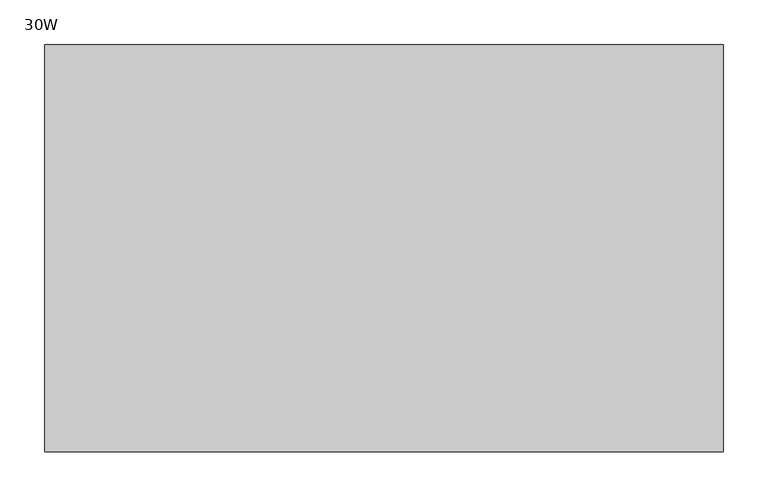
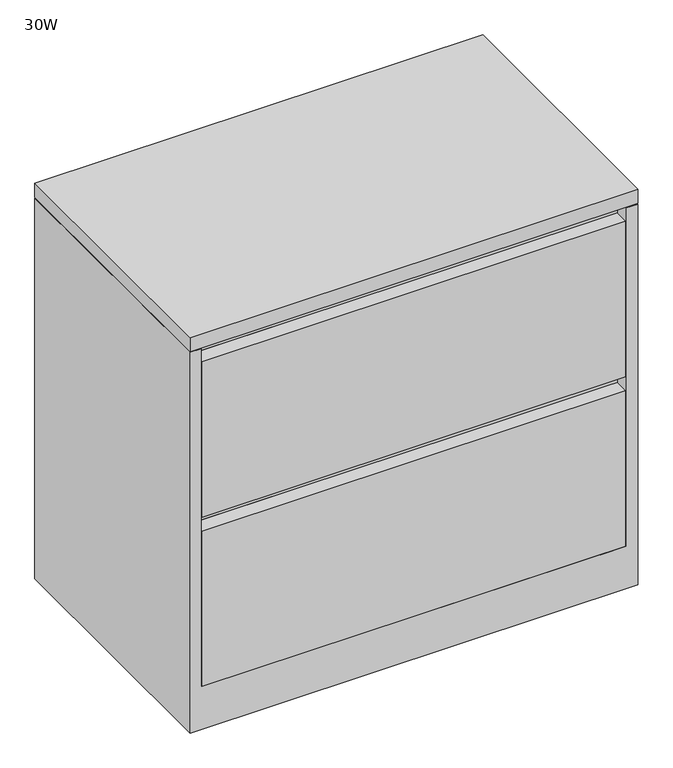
"""IFC4 building model written with IfcOpenShell, lengths in millimetres: furniture geometry, Steelcase - 900 Series - Storage - Lateral File With Drawer - 28H - Flush Steel : 30W."""

import ifcopenshell
import ifcopenshell.guid

model = None  # the IFC model being written
_history = None  # IfcOwnerHistory: only IFC2X3 demands one
_inside = {}  # id of a spatial element -> (the spatial element, [elements in it])
_under = {}  # id of a project, library or spatial element -> (it, [spatial elements below it])
_declared = {}  # id of a project -> (the project, [libraries it declares])
_typed = {}  # id of a type object -> (the type object, [elements of that type])
_made_of = {}  # id of a material, layer set ... -> (it, [elements and type objects made of it])


def new_model(schema):
    """Start an empty IFC model of exactly this schema.

    Asked for "IFC4X3", IfcOpenShell would pick the latest addendum, in which some entities
    have other attributes; the version numbers below select the first issue.
    IFC2X3 requires an IfcOwnerHistory on every rooted entity: one is made here for all.
    """
    global model, _history
    if schema == "IFC4X3":
        model = ifcopenshell.file(schema_version=(4, 3, 0, 0))
    else:
        model = ifcopenshell.file(schema=schema)
    _inside.clear()
    _under.clear()
    _declared.clear()
    _typed.clear()
    _made_of.clear()
    _history = None
    if model.schema == "IFC2X3":
        org = make("IfcOrganization", Name="unknown")
        user = make(
            "IfcPersonAndOrganization",
            ThePerson=make("IfcPerson", FamilyName="unknown"),
            TheOrganization=org,
        )
        app = make(
            "IfcApplication",
            ApplicationDeveloper=org,
            Version="unknown",
            ApplicationFullName="unknown",
            ApplicationIdentifier="unknown",
        )
        _history = make(
            "IfcOwnerHistory",
            OwningUser=user,
            OwningApplication=app,
            ChangeAction="ADDED",
            CreationDate=0,
        )
    return model


def make(cls, **values):
    """One entity of the class cls with the attributes given. An attribute that is None is left unset."""
    return model.create_entity(
        cls, **{name: value for name, value in values.items() if value is not None}
    )


def rooted(cls, **values):
    """An entity with a GlobalId (a new one), such as an element, a storey or a relation."""
    return make(cls, GlobalId=ifcopenshell.guid.new(), OwnerHistory=_history, **values)


def si_unit(unit_type, name, prefix=None):
    """IfcSIUnit, for example si_unit("LENGTHUNIT", "METRE", prefix="MILLI")."""
    return make("IfcSIUnit", UnitType=unit_type, Prefix=prefix, Name=name)


def assignment(units):
    """IfcUnitAssignment: the units of a project."""
    return None if units is None else make("IfcUnitAssignment", Units=units)


def point(xyz):
    """IfcCartesianPoint."""
    return None if xyz is None else make("IfcCartesianPoint", Coordinates=xyz)


def direction(xyz):
    """IfcDirection."""
    return None if xyz is None else make("IfcDirection", DirectionRatios=xyz)


def frame(location, z_axis=None, x_axis=None):
    """IfcAxis2Placement3D, a coordinate frame: its origin and axes. An axis left out is left unset."""
    return make(
        "IfcAxis2Placement3D",
        Location=point(location),
        Axis=direction(z_axis),
        RefDirection=direction(x_axis),
    )


def origin():
    """The frame at (0, 0, 0) with its axes left unset."""
    return frame((0.0, 0.0, 0.0))


def place(relative_to, where):
    """IfcLocalPlacement: puts the frame where relative to a parent placement (None: the world)."""
    return make(
        "IfcLocalPlacement", PlacementRelTo=relative_to, RelativePlacement=where
    )


def context(
    kind, dimensions, precision=None, world=None, true_north=None, identifier=None
):
    """IfcGeometricRepresentationContext, for example the 3D "Model" context."""
    return make(
        "IfcGeometricRepresentationContext",
        ContextIdentifier=identifier,
        ContextType=kind,
        CoordinateSpaceDimension=dimensions,
        Precision=precision,
        WorldCoordinateSystem=world,
        TrueNorth=true_north,
    )


def project(units=None, contexts=None):
    """IfcProject with its units and contexts."""
    return rooted(
        "IfcProject",
        Name="project",
        RepresentationContexts=contexts,
        UnitsInContext=assignment(units),
    )


def spatial(cls, under=None, at=None, **own):
    """A site, building, storey or space (cls), placed at a placement, below another one or the project."""
    s = rooted(cls, ObjectPlacement=at, **own)
    if under is not None:
        _under.setdefault(under.id(), (under, []))[1].append(s)
    return s


def polyline(points):
    """IfcPolyline through the points."""
    return make("IfcPolyline", Points=[point(p) for p in points])


def outline(outer, holes=None, kind="AREA"):
    """IfcArbitraryClosedProfileDef: a profile drawn as a closed curve; with holes, ...WithVoids."""
    if holes is None:
        return make("IfcArbitraryClosedProfileDef", ProfileType=kind, OuterCurve=outer)
    return make(
        "IfcArbitraryProfileDefWithVoids",
        ProfileType=kind,
        OuterCurve=outer,
        InnerCurves=holes,
    )


def extrude(swept, where, along, depth):
    """IfcExtrudedAreaSolid: the profile swept, set in the frame where, extruded along a direction by depth."""
    return make(
        "IfcExtrudedAreaSolid",
        SweptArea=swept,
        Position=where,
        ExtrudedDirection=direction(along),
        Depth=depth,
    )


def faces_of(points, faces, orient=None, outer=None):
    """IfcFace entities. A face is a list of loops; a loop is a list of indices into points, from 0.

    orient and outer hold one flag for each loop. By default every Orientation is true, the
    first loop of a face is its IfcFaceOuterBound and the others are IfcFaceBound.
    """
    made = []
    for i, loops in enumerate(faces):
        bounds = []
        for j, loop in enumerate(loops):
            is_outer = j == 0 if outer is None else outer[i][j]
            bounds.append(
                make(
                    "IfcFaceOuterBound" if is_outer else "IfcFaceBound",
                    Bound=make("IfcPolyLoop", Polygon=[points[k] for k in loop]),
                    Orientation=True if orient is None else orient[i][j],
                )
            )
        made.append(make("IfcFace", Bounds=bounds))
    return made


def faceted_brep(points, faces, orient=None, outer=None, voids=None):
    """IfcFacetedBrep: a solid bounded by flat faces; with voids (closed shells), ...WithVoids."""
    shared = [point(p) for p in points]
    hull = make("IfcClosedShell", CfsFaces=faces_of(shared, faces, orient, outer))
    if voids is None:
        return make("IfcFacetedBrep", Outer=hull)
    return make(
        "IfcFacetedBrepWithVoids",
        Outer=hull,
        Voids=[
            make(cls, CfsFaces=faces_of(shared, fs, o, b)) for cls, fs, o, b in voids
        ],
    )


def shape(context_of_items, identifier, shape_type, items):
    """IfcShapeRepresentation: the items that make up one representation, for example the "Body"."""
    return make(
        "IfcShapeRepresentation",
        ContextOfItems=context_of_items,
        RepresentationIdentifier=identifier,
        RepresentationType=shape_type,
        Items=items,
    )


def source(mapping_origin, context_of_items, identifier, shape_type, items):
    """IfcRepresentationMap: a shape defined once, which mapped items show again and again."""
    return make(
        "IfcRepresentationMap",
        MappingOrigin=mapping_origin,
        MappedRepresentation=shape(context_of_items, identifier, shape_type, items),
    )


def transform(
    local_origin,
    x_axis=None,
    y_axis=None,
    z_axis=None,
    scale=None,
    scale2=None,
    scale3=None,
    uniform=True,
):
    """IfcCartesianTransformationOperator3D, or its non-uniform kind. x_axis, y_axis, z_axis: its Axis1, 2, 3."""
    if uniform:
        return make(
            "IfcCartesianTransformationOperator3D",
            Axis1=direction(x_axis),
            Axis2=direction(y_axis),
            LocalOrigin=point(local_origin),
            Scale=scale,
            Axis3=direction(z_axis),
        )
    return make(
        "IfcCartesianTransformationOperator3DnonUniform",
        Axis1=direction(x_axis),
        Axis2=direction(y_axis),
        LocalOrigin=point(local_origin),
        Scale=scale,
        Axis3=direction(z_axis),
        Scale2=scale2,
        Scale3=scale3,
    )


def mapped(mapping_source, mapping_target):
    """IfcMappedItem: shows the shape of a source again, moved by a transform."""
    return make(
        "IfcMappedItem", MappingSource=mapping_source, MappingTarget=mapping_target
    )


def made_of(thing, what):
    """Note that an element or type object is made of a material, layer set ...; save() writes the relation."""
    if what is not None:
        _made_of.setdefault(what.id(), (what, []))[1].append(thing)
    return thing


def element(
    cls,
    number,
    at=None,
    inside=None,
    cuts=None,
    type_object=None,
    material=None,
    context=None,
    identifier="Body",
    shape_type=None,
    held_by="IfcProductDefinitionShape",
    body=None,
    shapes=None,
    **own,
):
    """One element of the class cls, such as IfcWall. Its Tag is "e" and its number.

    at: its placement. inside: the storey or other place that contains it. cuts: it is an
    opening in that element (IfcRelVoidsElement). A single representation is given by context,
    identifier, shape_type and body (its items); several are given by shapes. held_by: the class
    of the entity that holds the representations. save() writes the other relations.
    """
    e = rooted(cls, Tag="e%d" % number, ObjectPlacement=at, **own)
    if body is not None:
        shapes = [shape(context, identifier, shape_type, body)]
    if shapes is not None:
        e.Representation = make(held_by, Representations=shapes)
    if inside is not None:
        _inside.setdefault(inside.id(), (inside, []))[1].append(e)
    if cuts is not None:
        rooted(
            "IfcRelVoidsElement", RelatingBuildingElement=cuts, RelatedOpeningElement=e
        )
    if type_object is not None:
        _typed.setdefault(type_object.id(), (type_object, []))[1].append(e)
    return made_of(e, material)


def aggregate(whole, parts):
    """IfcRelAggregates: a whole, such as a stair, and the parts it consists of."""
    return rooted("IfcRelAggregates", RelatingObject=whole, RelatedObjects=parts)


def save(model, path):
    """Write the relations noted so far, then the file.

    IfcRelAggregates (storeys below a building ...), IfcRelContainedInSpatialStructure (elements
    in a storey), IfcRelDefinesByType, IfcRelAssociatesMaterial and IfcRelDeclares: one each for
    every whole, place, type object, material and project.
    """
    for whole, parts in _under.values():
        aggregate(whole, parts)
    for where, things in _inside.values():
        rooted(
            "IfcRelContainedInSpatialStructure",
            RelatedElements=things,
            RelatingStructure=where,
        )
    for kind, things in _typed.values():
        rooted("IfcRelDefinesByType", RelatedObjects=things, RelatingType=kind)
    for what, things in _made_of.values():
        rooted("IfcRelAssociatesMaterial", RelatedObjects=things, RelatingMaterial=what)
    for by, libraries in _declared.values():
        rooted("IfcRelDeclares", RelatingContext=by, RelatedDefinitions=libraries)
    model.write(path)


def furniture_30w_c5b9db49(model_context):
    return source(origin(), model_context, "Body", "SolidModel", [
        extrude(outline(polyline([(762.0, 0.0), (762.0, -457.2), (0.0, -457.2), (0.0, 0.0), (762.0, 0.0)])), frame((0.0, 0.0, 685.7999516), z_axis=(0.0, 0.0, 1.0), x_axis=(1.0, 0.0, 0.0)), (0.0, 0.0, 1.0), 25.4),
        faceted_brep([(742.6960184, -25.2721219, 684.276), (742.6960184, -457.2, 684.276), (762.0, -457.2, 684.276), (762.0, 0.0, 684.276), (0.0, 0.0, 684.276), (0.0, -457.2, 684.276), (19.3039998, -457.2, 684.276), (19.3039998, -25.2721219, 684.276), (0.0, -457.2, 0.0), (0.0, 0.0, 0.0), (762.0, 0.0, 0.0), (762.0, -457.2, 0.0), (742.6960184, -25.2721219, 381.0), (742.6960184, -431.800255, 381.0), (742.6960184, -431.800255, 355.6), (742.6960184, -25.2721219, 355.6), (742.6960184, -25.2721219, 76.2), (742.6960184, -457.2, 76.2), (19.3039998, -457.2, 76.2), (19.3039998, -25.2721219, 76.2), (19.3039998, -25.2721219, 355.6), (19.3039998, -431.800255, 355.6), (19.3039998, -431.800255, 381.0), (19.3039998, -25.2721219, 381.0)], [[[0, 1, 2, 3, 4, 5, 6, 7]], [[8, 9, 10, 11]], [[1, 0, 12, 13, 14, 15, 16, 17]], [[2, 1, 17, 18, 6, 5, 8, 11]], [[3, 2, 11, 10]], [[4, 3, 10, 9]], [[5, 4, 9, 8]], [[7, 6, 18, 19, 20, 21, 22, 23]], [[0, 7, 23, 12]], [[16, 15, 20, 19]], [[18, 17, 16, 19]], [[22, 13, 12, 23]], [[13, 22, 21, 14]], [[14, 21, 20, 15]]]),
        extrude(outline(polyline([(742.6960184, -25.2721219), (742.6960184, -431.800255), (19.3039998, -431.800255), (19.3039998, -25.2721219), (742.6960184, -25.2721219)])), frame((0.0, 0.0, 660.4), z_axis=(0.0, 0.0, 1.0), x_axis=(1.0, 0.0, 0.0)), (0.0, 0.0, 1.0), 25.4),
        extrude(outline(polyline([(742.6960184, -25.2721219), (742.6960184, -415.9241219), (20.8289612, -415.9241219), (20.8289612, -25.2721219), (742.6960184, -25.2721219)])), frame((0.0, 0.0, 684.276), z_axis=(0.0, 0.0, 1.0), x_axis=(1.0, 0.0, 0.0)), (0.0, 0.0, 1.0), 1.5239516),
        extrude(outline(polyline([(741.1722015, -457.2), (20.8289612, -457.2), (20.8289612, -431.800255), (741.1722015, -431.800255), (741.1722015, -457.2)])), frame((0.0, 0.0, 76.2), z_axis=(0.0, 0.0, 1.0), x_axis=(1.0, 0.0, 0.0)), (0.0, 0.0, 1.0), 279.4),
        extrude(outline(polyline([(741.1722015, -457.2), (20.8289612, -457.2), (20.8289612, -431.800255), (741.1722015, -431.800255), (741.1722015, -457.2)])), frame((0.0, 0.0, 381.0), z_axis=(0.0, 0.0, 1.0), x_axis=(1.0, 0.0, 0.0)), (0.0, 0.0, 1.0), 279.4),
    ])


if __name__ == "__main__":
    model = new_model("IFC4")
    model_context = context("Model", 3, world=origin())
    ifc_project = project(units=[si_unit("LENGTHUNIT", "METRE", prefix="MILLI")], contexts=[model_context])
    site = spatial("IfcSite", under=ifc_project)
    building = spatial("IfcBuilding", under=site)
    placement = place(None, origin())
    furniture_30w_shape = furniture_30w_c5b9db49(model_context)
    element("IfcFurniture", 1, ObjectType="Steelcase - 900 Series - Storage - Lateral File With Drawer - 28H - Flush Steel : 30W", at=placement, inside=building, context=model_context, shape_type="MappedRepresentation", body=[
        mapped(furniture_30w_shape, transform((0.0, 0.0, 0.0), x_axis=(1.0, 0.0, 0.0), y_axis=(0.0, 1.0, 0.0), z_axis=(0.0, 0.0, 1.0))),
    ])
    save(model, "model.ifc")
